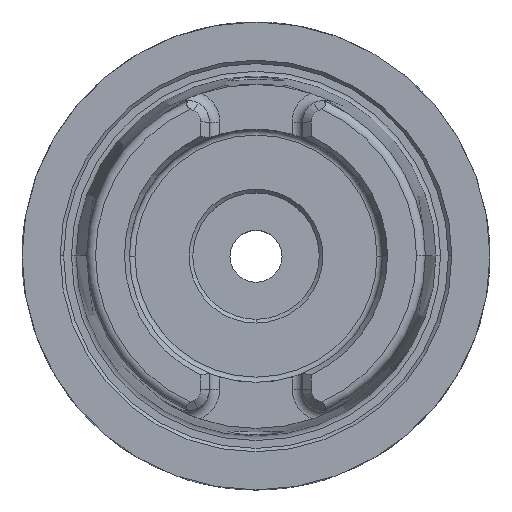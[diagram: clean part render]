
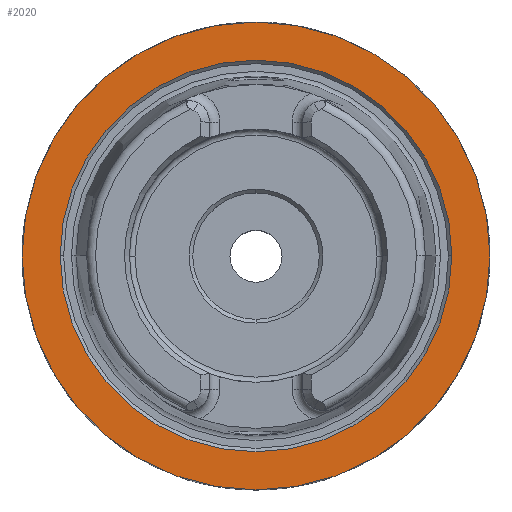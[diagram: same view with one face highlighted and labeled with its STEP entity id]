
A CAD part, top view. The second image highlights one B-rep face of the part: STEP entity #2020.
In plain terms, the highlighted planar face has unit normal (0, 0, 1).
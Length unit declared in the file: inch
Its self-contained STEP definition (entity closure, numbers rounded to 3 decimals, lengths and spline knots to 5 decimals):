
#217 = ORIENTED_EDGE ( 'NONE', *, *, #2674, .F. ) ;
#389 = CIRCLE ( 'NONE', #1570, 1.23898 ) ;
#391 = DIRECTION ( 'NONE',  ( 0., 0., 1. ) ) ;
#661 = CARTESIAN_POINT ( 'NONE',  ( 0., 0.9575, 0. ) ) ;
#1118 = ORIENTED_EDGE ( 'NONE', *, *, #6429, .F. ) ;
#1153 = CIRCLE ( 'NONE', #7984, 1.23898 ) ;
#1161 = FACE_BOUND ( 'NONE', #6125, .T. ) ;
#1303 = CIRCLE ( 'NONE', #3620, 1.03689 ) ;
#1570 = AXIS2_PLACEMENT_3D ( 'NONE', #3002, #2261, #8390 ) ;
#1593 = ORIENTED_EDGE ( 'NONE', *, *, #6413, .F. ) ;
#1771 = CARTESIAN_POINT ( 'NONE',  ( 0., 0., 0. ) ) ;
#1980 = DIRECTION ( 'NONE',  ( -1., 0., 0. ) ) ;
#2020 = ADVANCED_FACE ( 'NONE', ( #4571, #1161 ), #4521, .T. ) ;
#2112 = EDGE_LOOP ( 'NONE', ( #1593, #2782 ) ) ;
#2186 = AXIS2_PLACEMENT_3D ( 'NONE', #661, #2846, #8059 ) ;
#2261 = DIRECTION ( 'NONE',  ( 0., 0., -1. ) ) ;
#2571 = AXIS2_PLACEMENT_3D ( 'NONE', #1771, #391, #8521 ) ;
#2674 = EDGE_CURVE ( 'NONE', #3486, #8193, #7257, .T. ) ;
#2782 = ORIENTED_EDGE ( 'NONE', *, *, #7481, .F. ) ;
#2846 = DIRECTION ( 'NONE',  ( 0., 0., 1. ) ) ;
#3002 = CARTESIAN_POINT ( 'NONE',  ( 0., 0., 0. ) ) ;
#3385 = CARTESIAN_POINT ( 'NONE',  ( 0., 0., 0. ) ) ;
#3486 = VERTEX_POINT ( 'NONE', #3655 ) ;
#3620 = AXIS2_PLACEMENT_3D ( 'NONE', #4757, #6608, #4626 ) ;
#3655 = CARTESIAN_POINT ( 'NONE',  ( 1.03689, 0., 0. ) ) ;
#3764 = VERTEX_POINT ( 'NONE', #8179 ) ;
#4521 = PLANE ( 'NONE',  #2186 ) ;
#4571 = FACE_OUTER_BOUND ( 'NONE', #2112, .T. ) ;
#4626 = DIRECTION ( 'NONE',  ( 1., 0., 0. ) ) ;
#4757 = CARTESIAN_POINT ( 'NONE',  ( 0., 0., 0. ) ) ;
#4859 = CARTESIAN_POINT ( 'NONE',  ( 1.23898, 0., 0. ) ) ;
#5891 = VERTEX_POINT ( 'NONE', #4859 ) ;
#6125 = EDGE_LOOP ( 'NONE', ( #217, #1118 ) ) ;
#6413 = EDGE_CURVE ( 'NONE', #3764, #5891, #1153, .T. ) ;
#6429 = EDGE_CURVE ( 'NONE', #8193, #3486, #1303, .T. ) ;
#6608 = DIRECTION ( 'NONE',  ( 0., 0., 1. ) ) ;
#6976 = CARTESIAN_POINT ( 'NONE',  ( -1.03689, 0., 0. ) ) ;
#7257 = CIRCLE ( 'NONE', #2571, 1.03689 ) ;
#7481 = EDGE_CURVE ( 'NONE', #5891, #3764, #389, .T. ) ;
#7984 = AXIS2_PLACEMENT_3D ( 'NONE', #3385, #8065, #1980 ) ;
#8059 = DIRECTION ( 'NONE',  ( 1., 0., 0. ) ) ;
#8065 = DIRECTION ( 'NONE',  ( 0., 0., -1. ) ) ;
#8179 = CARTESIAN_POINT ( 'NONE',  ( -1.23898, 0., 0. ) ) ;
#8193 = VERTEX_POINT ( 'NONE', #6976 ) ;
#8390 = DIRECTION ( 'NONE',  ( -1., 0., 0. ) ) ;
#8521 = DIRECTION ( 'NONE',  ( 1., 0., 0. ) ) ;
